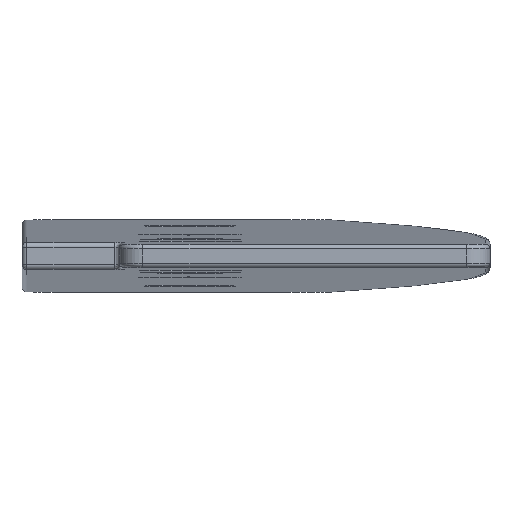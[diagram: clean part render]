
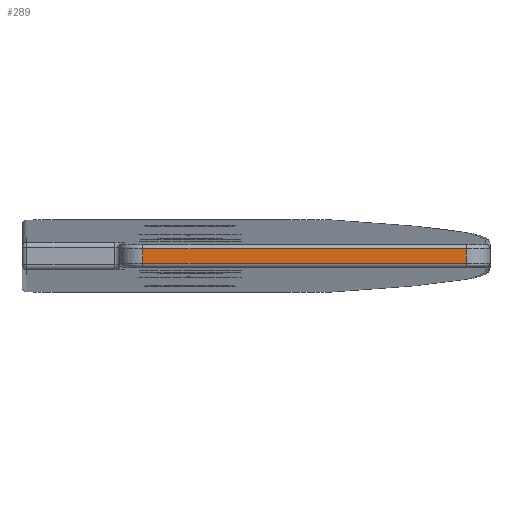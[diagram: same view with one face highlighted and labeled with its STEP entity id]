
A CAD part, front view. The second image highlights one B-rep face of the part: STEP entity #289.
In plain terms, the highlighted planar face has unit normal (0, -1, 0).
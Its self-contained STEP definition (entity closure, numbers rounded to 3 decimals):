
#44 = PLANE ( 'NONE',  #61 ) ;
#45 = CARTESIAN_POINT ( 'NONE',  ( 7.7, -12.6, 5. ) ) ;
#61 = AXIS2_PLACEMENT_3D ( 'NONE', #45, #68, #76 ) ;
#68 = DIRECTION ( 'NONE',  ( 0., 1., 0. ) ) ;
#72 = CARTESIAN_POINT ( 'NONE',  ( 28.3, -12.6, 5. ) ) ;
#73 = LINE ( 'NONE', #72, #75 ) ;
#74 = DIRECTION ( 'NONE',  ( 0., 0., -1. ) ) ;
#75 = VECTOR ( 'NONE', #74, 1000. ) ;
#76 = DIRECTION ( 'NONE',  ( 0., 0., 1. ) ) ;
#77 = FACE_OUTER_BOUND ( 'NONE', #286, .T. ) ;
#286 = EDGE_LOOP ( 'NONE', ( #287, #381, #383, #384 ) ) ;
#287 = ORIENTED_EDGE ( 'NONE', *, *, #288, .F. ) ;
#288 = EDGE_CURVE ( 'NONE', #379, #380, #73, .T. ) ;
#289 = ADVANCED_FACE ( 'NONE', ( #77 ), #44, .F. ) ;
#379 = VERTEX_POINT ( 'NONE', #1014 ) ;
#380 = VERTEX_POINT ( 'NONE', #1013 ) ;
#381 = ORIENTED_EDGE ( 'NONE', *, *, #382, .T. ) ;
#382 = EDGE_CURVE ( 'NONE', #379, #448, #1012, .T. ) ;
#383 = ORIENTED_EDGE ( 'NONE', *, *, #447, .T. ) ;
#384 = ORIENTED_EDGE ( 'NONE', *, *, #385, .F. ) ;
#385 = EDGE_CURVE ( 'NONE', #380, #449, #1008, .T. ) ;
#447 = EDGE_CURVE ( 'NONE', #448, #449, #1581, .T. ) ;
#448 = VERTEX_POINT ( 'NONE', #1575 ) ;
#449 = VERTEX_POINT ( 'NONE', #1578 ) ;
#1007 = CARTESIAN_POINT ( 'NONE',  ( 7.7, -12.6, -0.453 ) ) ;
#1008 = LINE ( 'NONE', #1007, #1025 ) ;
#1009 = DIRECTION ( 'NONE',  ( -1., 0., 0. ) ) ;
#1010 = VECTOR ( 'NONE', #1009, 1000. ) ;
#1011 = CARTESIAN_POINT ( 'NONE',  ( 7.7, -12.6, 0.453 ) ) ;
#1012 = LINE ( 'NONE', #1011, #1010 ) ;
#1013 = CARTESIAN_POINT ( 'NONE',  ( 28.3, -12.6, -0.453 ) ) ;
#1014 = CARTESIAN_POINT ( 'NONE',  ( 28.3, -12.6, 0.453 ) ) ;
#1023 = DIRECTION ( 'NONE',  ( -1., 0., 0. ) ) ;
#1025 = VECTOR ( 'NONE', #1023, 1000. ) ;
#1575 = CARTESIAN_POINT ( 'NONE',  ( 7.7, -12.6, 0.453 ) ) ;
#1576 = DIRECTION ( 'NONE',  ( 0., 0., -1. ) ) ;
#1577 = VECTOR ( 'NONE', #1576, 1000. ) ;
#1578 = CARTESIAN_POINT ( 'NONE',  ( 7.7, -12.6, -0.453 ) ) ;
#1580 = CARTESIAN_POINT ( 'NONE',  ( 7.7, -12.6, 5. ) ) ;
#1581 = LINE ( 'NONE', #1580, #1577 ) ;
